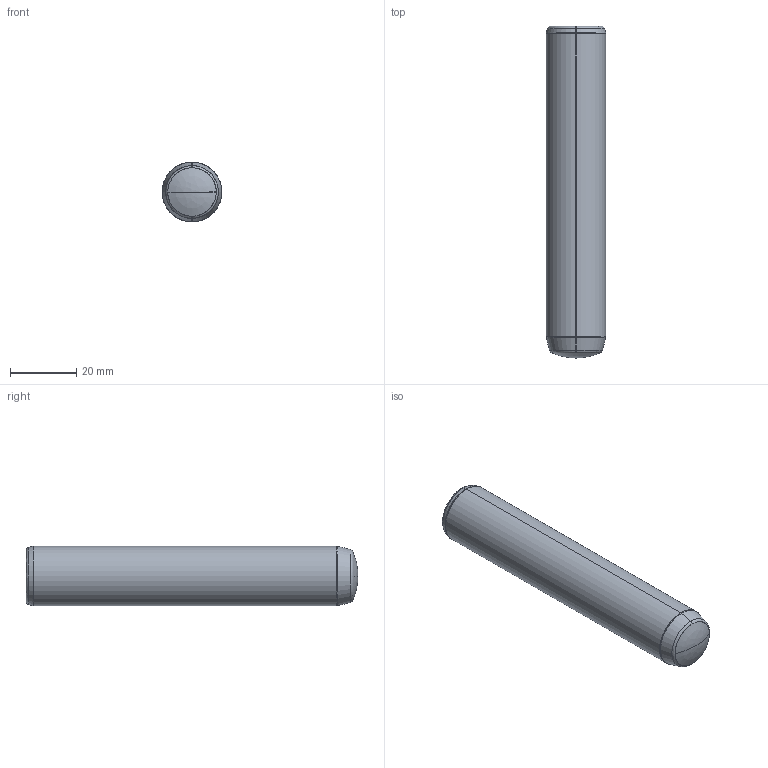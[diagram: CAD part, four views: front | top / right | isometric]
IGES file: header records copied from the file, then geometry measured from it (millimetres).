
Start section: SolidWorks IGES file using analytic representation for surfaces
Global section: file name: D:\Cleonir_arquivos\MT_15_07\Pinos Guia DIN 7979 ISO 8735 com rosca\PG718100.igs; native system: SolidWorks 2013; preprocessor: SolidWorks 2013; author: Cleonir; date: 130730.172225; units: millimetre
Bounding box: 18 x 100 x 18 mm (x, y, z)
Surface area: 6424.4 mm2 (no closed solid volume)
Topology: 0 solids, 0 shells, 283 faces, 2091 edges, 2088 vertices
Faces by surface type: bspline 261, revolution 22
